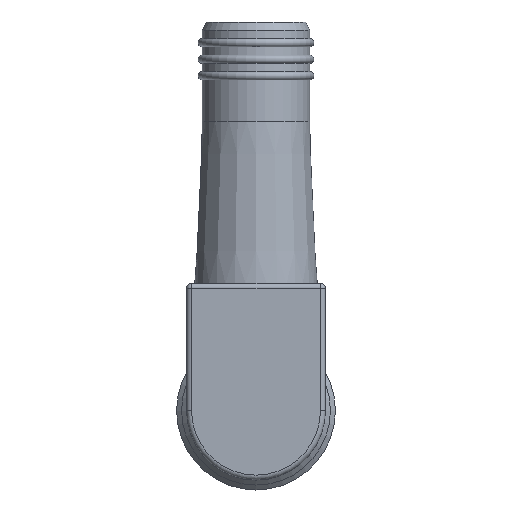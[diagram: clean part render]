
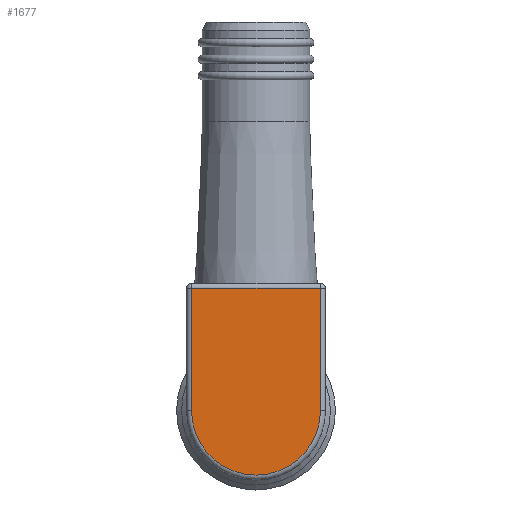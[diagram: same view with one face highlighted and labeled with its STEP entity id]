
A CAD part, front view. The second image highlights one B-rep face of the part: STEP entity #1677.
In plain terms, the highlighted planar face has unit normal (0, -1, 0).
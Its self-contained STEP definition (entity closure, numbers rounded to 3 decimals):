
#74=LINE('',#3106,#140);
#75=LINE('',#3110,#141);
#76=LINE('',#3111,#142);
#140=VECTOR('',#2373,10.);
#141=VECTOR('',#2376,10.);
#142=VECTOR('',#2377,10.);
#526=FACE_OUTER_BOUND('',#716,.T.);
#716=EDGE_LOOP('',(#1455,#1456,#1457,#1458));
#828=CIRCLE('',#1900,3.9);
#974=VERTEX_POINT('',#3104);
#975=VERTEX_POINT('',#3105);
#976=VERTEX_POINT('',#3107);
#977=VERTEX_POINT('',#3109);
#1140=EDGE_CURVE('',#974,#975,#74,.T.);
#1141=EDGE_CURVE('',#976,#974,#828,.T.);
#1142=EDGE_CURVE('',#977,#976,#75,.T.);
#1143=EDGE_CURVE('',#975,#977,#76,.T.);
#1455=ORIENTED_EDGE('',*,*,#1140,.F.);
#1456=ORIENTED_EDGE('',*,*,#1141,.F.);
#1457=ORIENTED_EDGE('',*,*,#1142,.F.);
#1458=ORIENTED_EDGE('',*,*,#1143,.F.);
#1574=PLANE('',#1899);
#1677=ADVANCED_FACE('',(#526),#1574,.T.);
#1899=AXIS2_PLACEMENT_3D('',#3103,#2371,#2372);
#1900=AXIS2_PLACEMENT_3D('',#3108,#2374,#2375);
#2371=DIRECTION('center_axis',(0.,-1.,0.));
#2372=DIRECTION('ref_axis',(-1.,0.,0.));
#2373=DIRECTION('',(0.,0.,1.));
#2374=DIRECTION('center_axis',(0.,1.,0.));
#2375=DIRECTION('ref_axis',(0.,0.,-1.));
#2376=DIRECTION('',(0.,0.,-1.));
#2377=DIRECTION('',(1.,0.,0.));
#3103=CARTESIAN_POINT('Origin',(0.,-9.44,
2.491));
#3104=CARTESIAN_POINT('',(-3.9,-9.44,0.));
#3105=CARTESIAN_POINT('',(-3.9,-9.44,7.4));
#3106=CARTESIAN_POINT('',(-3.9,-9.44,1.246));
#3107=CARTESIAN_POINT('',(3.9,-9.44,0.));
#3108=CARTESIAN_POINT('Origin',(0.,-9.44,
0.));
#3109=CARTESIAN_POINT('',(3.9,-9.44,7.4));
#3110=CARTESIAN_POINT('',(3.9,-9.44,5.096));
#3111=CARTESIAN_POINT('',(-2.1,-9.44,7.4));
